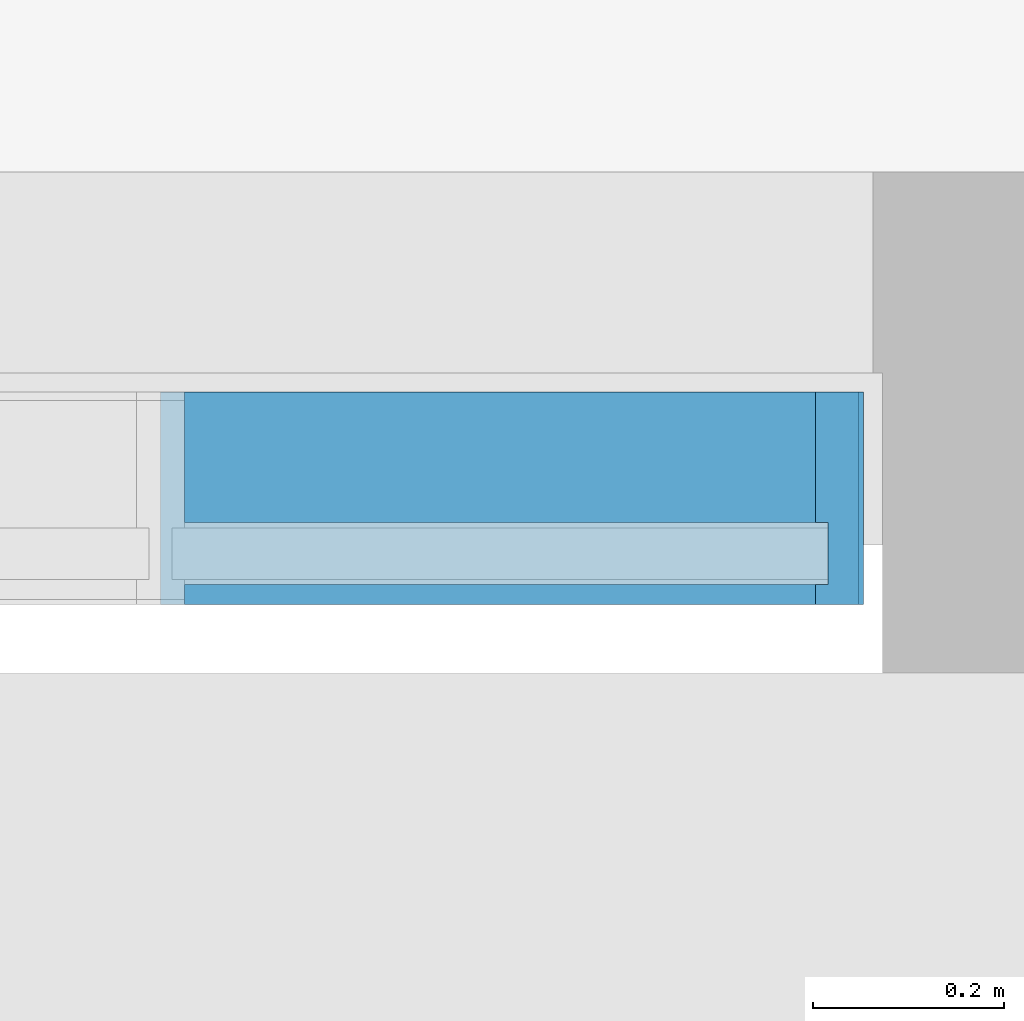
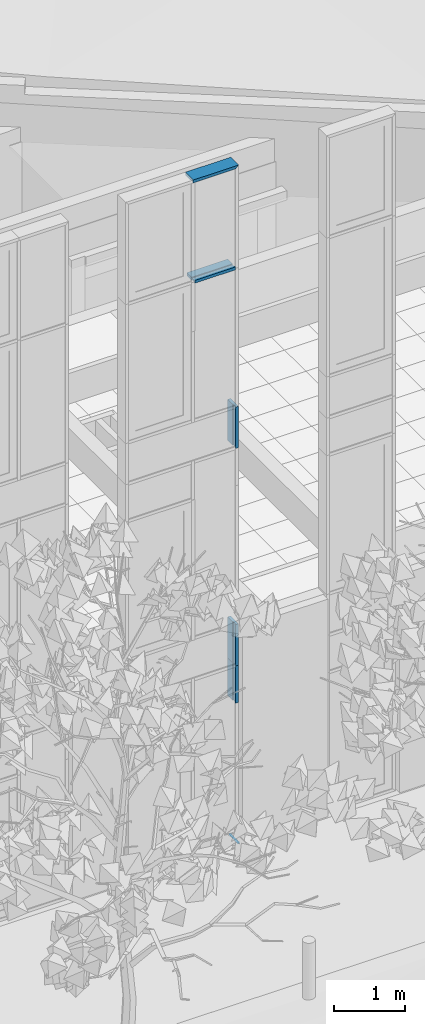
# One storey, part 44 of 246: 6 members, 1 element without a shape of its own.
"""IFC2X3 building model written with IfcOpenShell, lengths in millimetres."""

from ifc_helpers import new_model, entity, si_unit, converted_unit, derived_unit, money_unit, direction, frame, origin_with_axes, place, context, subcontext, project, spatial, faceted_brep, source, transform, mapped, material, type_object, element, aggregate, save


model = new_model("IFC2X3")

# Units and contexts
model_context = context("Model", 3, precision=0.01, world=origin_with_axes(), true_north=direction((0.0, 1.0)))
body_context = subcontext(model_context, "Body", "Model", "MODEL_VIEW")
ifc_project = project(units=[si_unit("LENGTHUNIT", "METRE", prefix="MILLI"), si_unit("AREAUNIT", "SQUARE_METRE"), si_unit("VOLUMEUNIT", "CUBIC_METRE"), converted_unit("PLANEANGLEUNIT", "DEGREE", entity("IfcPlaneAngleMeasure", 0.0174532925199), si_unit("PLANEANGLEUNIT", "RADIAN"), dimensions=[0, 0, 0, 0, 0, 0, 0]), si_unit("SOLIDANGLEUNIT", "STERADIAN"), money_unit("EUR"), converted_unit("TIMEUNIT", "Year", entity("IfcTimeMeasure", 31556926.0), si_unit("TIMEUNIT", "SECOND"), dimensions=[0, 0, 1, 0, 0, 0, 0]), si_unit("MASSUNIT", "GRAM", prefix="KILO"), si_unit("THERMODYNAMICTEMPERATUREUNIT", "DEGREE_CELSIUS"), si_unit("LUMINOUSINTENSITYUNIT", "LUMEN"), si_unit("ENERGYUNIT", "JOULE", prefix="MEGA"), derived_unit("THERMALCONDUCTANCEUNIT", [(si_unit("POWERUNIT", "WATT"), 1), (si_unit("LENGTHUNIT", "METRE"), -1), (si_unit("THERMODYNAMICTEMPERATUREUNIT", "KELVIN"), -1)]), derived_unit("SPECIFICHEATCAPACITYUNIT", [(si_unit("ENERGYUNIT", "JOULE"), 1), (si_unit("MASSUNIT", "GRAM", prefix="KILO"), -1), (si_unit("THERMODYNAMICTEMPERATUREUNIT", "KELVIN"), -1)]), derived_unit("MASSDENSITYUNIT", [(si_unit("MASSUNIT", "GRAM", prefix="KILO"), 1), (si_unit("VOLUMEUNIT", "CUBIC_METRE"), -1)])], contexts=[model_context])

# Site, building, storey
site_placement = place(None, origin_with_axes())
site = spatial("IfcSite", under=ifc_project, at=site_placement, Name="L.Koidula tn 11b", CompositionType="ELEMENT")
building_placement = place(site_placement, origin_with_axes())
building = spatial("IfcBuilding", under=site, at=building_placement, Name="Rakvere Riigigümnaasium", CompositionType="ELEMENT")
storey_placement = place(building_placement, origin_with_axes())
storey = spatial("IfcBuildingStorey", under=building, at=storey_placement, Name="1.korrus 0,00", CompositionType="ELEMENT", Elevation=0.0)

# Curtain wall, members
curtain_wall_type = type_object("IfcCurtainWallType", Name="Curtain Wall Type", PredefinedType="NOTDEFINED")
curtain_wall_placement = place(storey_placement, frame((81464.0000846, 5111.45334637, -8.09717250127e-06), z_axis=(0.0, 0.0, 1.0), x_axis=(1.0, 0.0, 0.0)))
curtain_wall = element("IfcCurtainWall", 1, at=curtain_wall_placement, inside=storey, type_object=curtain_wall_type, Name="KLF-05-2A")
ifc_material = material(Name="Alumiiniumprofiil (RAL 7021)")
member_type_1 = type_object("IfcMemberType", Name="Boundary Frame 50 x 222", PredefinedType="MULLION")
shared_shape_1 = source(origin_with_axes(), body_context, "Body", "Brep", [
    faceted_brep([(37.0, -32.5, 705.000000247), (37.0, 32.5, 705.000000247), (50.0, 32.5, 705.000000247), (50.0, 53.0, 705.000000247), (0.0, 53.0, 705.000000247), (0.0, -169.0, 705.000000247), (50.0, -169.0, 705.000000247), (50.0, -32.5, 705.000000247), (37.0, -32.5, 0.0), (37.0, 32.5, 0.0), (50.0, 32.5, 0.0), (50.0, 53.0, 0.0), (0.0, 53.0, 0.0), (0.0, -169.0, 0.0), (50.0, -169.0, 0.0), (50.0, -32.5, 0.0)], [[[0, 1, 2, 3, 4, 5, 6, 7]], [[1, 0, 8, 9]], [[10, 2, 1, 9]], [[2, 10, 11, 3]], [[12, 4, 3, 11]], [[13, 5, 4, 12]], [[14, 6, 5, 13]], [[15, 7, 6, 14]], [[0, 7, 15, 8]], [[8, 15, 14, 13, 12, 11, 10, 9]]]),
])
member_1_placement = place(curtain_wall_placement, frame((876.000206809, 0.0, 6760.0), z_axis=(0.0, 0.0, 1.0), x_axis=(-1.0, 0.0, 0.0)))
member_1 = element("IfcMember", 2, at=member_1_placement, type_object=member_type_1, material=ifc_material, Name="KLF-05-7A-Profiilid", ObjectType="MULLION", context=body_context, shape_type="MappedRepresentation", body=[
    mapped(shared_shape_1, transform((0.0, 0.0, 0.0))),
])
member_2_placement = place(curtain_wall_placement, frame((876.000206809, 0.0, 3040.0), z_axis=(0.0, 0.0, 1.0), x_axis=(-1.0, 0.0, 0.0)))
member_2 = element("IfcMember", 3, at=member_2_placement, type_object=member_type_1, material=ifc_material, Name="KLF-05-4A-Profiilid", ObjectType="MULLION", context=body_context, shape_type="MappedRepresentation", body=[
    mapped(shared_shape_1, transform((0.0, 0.0, 0.0))),
])
shared_shape_2 = source(origin_with_axes(), body_context, "Body", "Brep", [
    faceted_brep([(37.0, -32.5, 640.0), (37.0, 32.5, 640.0), (50.0, 32.5, 640.0), (50.0, 53.0, 640.0), (0.0, 53.0, 640.0), (0.0, -169.0, 640.0), (50.0, -169.0, 640.0), (50.0, -32.5, 640.0), (37.0, -32.5, 0.0), (37.0, 32.5, 0.0), (50.0, 32.5, 0.0), (50.0, 53.0, 0.0), (0.0, 53.0, 0.0), (0.0, -169.0, 0.0), (50.0, -169.0, 0.0), (50.0, -32.5, 0.0)], [[[0, 1, 2, 3, 4, 5, 6, 7]], [[1, 0, 8, 9]], [[10, 2, 1, 9]], [[2, 10, 11, 3]], [[12, 4, 3, 11]], [[13, 5, 4, 12]], [[14, 6, 5, 13]], [[15, 7, 6, 14]], [[0, 7, 15, 8]], [[8, 15, 14, 13, 12, 11, 10, 9]]]),
])
member_3_placement = place(curtain_wall_placement, frame((876.000206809, 0.0, 2400.0), z_axis=(0.0, 0.0, 1.0), x_axis=(-1.0, 0.0, 0.0)))
member_3 = element("IfcMember", 4, at=member_3_placement, type_object=member_type_1, material=ifc_material, Name="KLF-05-3A-Profiilid", ObjectType="MULLION", context=body_context, shape_type="MappedRepresentation", body=[
    mapped(shared_shape_2, transform((0.0, 0.0, 0.0))),
])
member_type_2 = type_object("IfcMemberType", Name="Transom Frame 50 x 222", PredefinedType="MULLION")
shared_shape_3 = source(origin_with_axes(), body_context, "Body", "Brep", [
    faceted_brep([(-12.0, -32.5, 685.000257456), (-25.0, -32.5, 685.000257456), (-25.0, -169.0, 685.000249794), (25.0, -169.0, 685.000249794), (25.0, -32.5, 685.000257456), (12.0, -32.5, 685.000257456), (12.0, 32.5, 685.000261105), (25.0, 32.5, 685.000261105), (25.0, 53.0, 685.000262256), (-25.0, 53.0, 685.000262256), (-25.0, 32.5, 685.000261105), (-12.0, 32.5, 685.000261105), (-12.0, -32.5, 25.0), (-25.0, -32.5, 25.0), (-25.0, -169.0, 25.0), (25.0, -169.0, 25.0), (25.0, -32.5, 25.0), (12.0, -32.5, 25.0), (12.0, 32.5, 25.0), (25.0, 32.5, 25.0), (25.0, 53.0, 25.0), (-25.0, 53.0, 25.0), (-25.0, 32.5, 25.0), (-12.0, 32.5, 25.0)], [[[0, 1, 2, 3, 4, 5, 6, 7, 8, 9, 10, 11]], [[1, 0, 12, 13]], [[1, 13, 14, 2]], [[2, 14, 15, 3]], [[4, 3, 15, 16]], [[4, 16, 17, 5]], [[5, 17, 18, 6]], [[7, 6, 18, 19]], [[19, 20, 8, 7]], [[8, 20, 21, 9]], [[22, 10, 9, 21]], [[11, 10, 22, 23]], [[0, 11, 23, 12]], [[23, 22, 21, 20, 19, 18, 17, 16, 15, 14, 13, 12]]]),
])
member_4_placement = place(curtain_wall_placement, frame((140.999912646, 0.0, 9840.0), z_axis=(1.0, 0.0, 0.0), x_axis=(0.0, 0.0, 1.0)))
member_4 = element("IfcMember", 5, at=member_4_placement, type_object=member_type_2, material=ifc_material, Name="KLF-05-0A-Profiilid", ObjectType="MULLION", context=body_context, shape_type="MappedRepresentation", body=[
    mapped(shared_shape_3, transform((0.0, 0.0, 0.0))),
])
shared_shape_4 = source(origin_with_axes(), body_context, "Body", "Brep", [
    faceted_brep([(5.00003729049, 53.0, 0.0), (0.0, 53.0, 0.0), (0.0, 53.0, 5.00003729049), (5.00003729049, -169.0, 0.0), (0.0, -169.0, 0.0), (0.0, -169.0, 5.00003729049)], [[[0, 1, 2]], [[3, 4, 1, 0]], [[1, 4, 5, 2]], [[0, 2, 5, 3]], [[4, 3, 5]]]),
])
member_5_placement = place(curtain_wall_placement, frame((871.000169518, 0.0, 0.0), z_axis=(1.0, 0.0, 0.0), x_axis=(0.0, 0.0, 1.0)))
member_5 = element("IfcMember", 6, at=member_5_placement, type_object=member_type_1, material=ifc_material, Name="KLF-05-1A-Profiilid", ObjectType="MULLION", context=body_context, shape_type="MappedRepresentation", body=[
    mapped(shared_shape_4, transform((0.0, 0.0, 0.0))),
])
shared_shape_5 = source(origin_with_axes(), body_context, "Body", "Brep", [
    faceted_brep([(37.0, -32.5, 735.000357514), (37.0, 32.5, 735.000357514), (50.0, 32.5, 735.000357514), (50.0, 53.0, 735.000357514), (0.0, 53.0, 735.000357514), (0.0, -169.0, 735.000357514), (50.0, -169.0, 735.000357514), (50.0, -32.5, 735.000357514), (37.0, -32.5, 37.0000020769), (37.0, 32.5, 37.0000020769), (50.0, 32.5, 50.0000028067), (50.0, 53.0, 50.0000028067), (0.0, 53.0, 0.0), (0.0, -169.0, 0.0), (50.0, -169.0, 50.0000028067), (50.0, -32.5, 50.0000028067)], [[[0, 1, 2, 3, 4, 5, 6, 7]], [[1, 0, 8, 9]], [[10, 2, 1, 9]], [[2, 10, 11, 3]], [[4, 3, 11, 12]], [[5, 4, 12, 13]], [[6, 5, 13, 14]], [[15, 7, 6, 14]], [[0, 7, 15, 8]], [[8, 15, 14, 13, 12, 11, 10, 9]]]),
])
member_6_placement = place(curtain_wall_placement, frame((876.00027016, 0.0, 11590.0000411), z_axis=(-1.0, 0.0, 0.0), x_axis=(0.0, 0.0, -1.0)))
member_6 = element("IfcMember", 7, at=member_6_placement, type_object=member_type_1, material=ifc_material, Name="KLF-05-0A-Profiilid", ObjectType="MULLION", context=body_context, shape_type="MappedRepresentation", body=[
    mapped(shared_shape_5, transform((0.0, 0.0, 0.0))),
])
aggregate(curtain_wall, [member_1, member_4, member_2, member_3, member_5, member_6])

save(model, "model.ifc")
